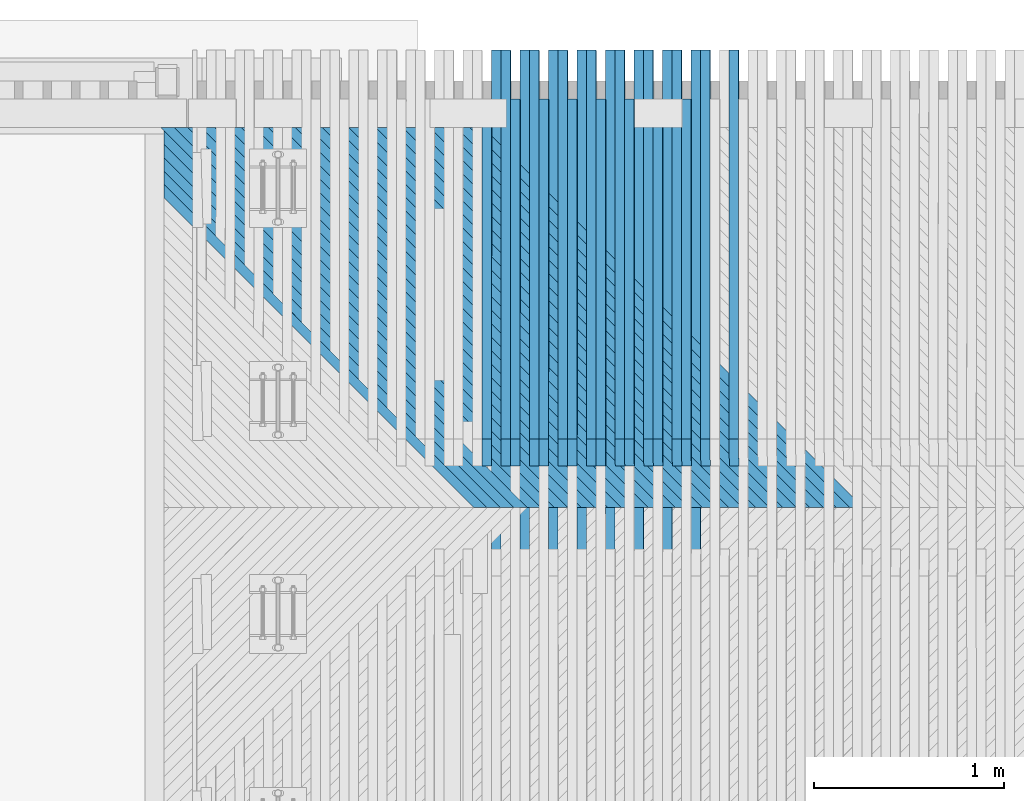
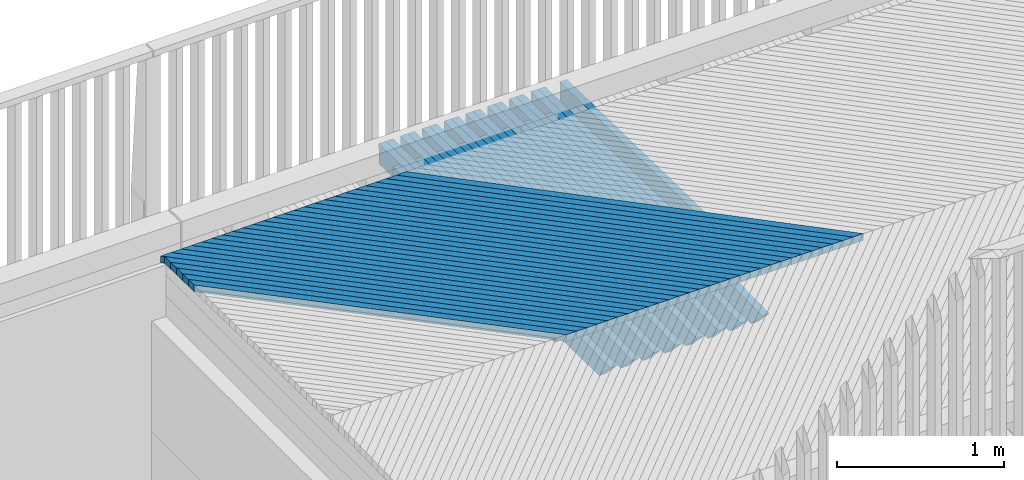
# One storey, part 18 of 47: 54 beams.
"""IFC2X3 building model written with IfcOpenShell, lengths in millimetres."""

from ifc_helpers import new_model, si_unit, frame, origin_with_axes, place, context, subcontext, project, spatial, faceted_brep, material, type_object, element, save


model = new_model("IFC2X3")

# Units and contexts
model_context = context("Model", 3, precision=1e-05, world=origin_with_axes())
body_context = subcontext(model_context, "Body", "Model", "MODEL_VIEW")
ifc_project = project(units=[si_unit("LENGTHUNIT", "METRE", prefix="MILLI"), si_unit("AREAUNIT", "SQUARE_METRE"), si_unit("VOLUMEUNIT", "CUBIC_METRE"), si_unit("MASSUNIT", "GRAM", prefix="KILO"), si_unit("TIMEUNIT", "SECOND"), si_unit("PLANEANGLEUNIT", "RADIAN"), si_unit("SOLIDANGLEUNIT", "STERADIAN"), si_unit("THERMODYNAMICTEMPERATUREUNIT", "DEGREE_CELSIUS"), si_unit("LUMINOUSINTENSITYUNIT", "LUMEN")], contexts=[model_context])

# Site, building, storey
site_placement = place(None, origin_with_axes())
site = spatial("IfcSite", under=ifc_project, at=site_placement, Name="Undefined", CompositionType="ELEMENT")
building_placement = place(site_placement, origin_with_axes())
building = spatial("IfcBuilding", under=site, at=building_placement, Name="Undefined", CompositionType="ELEMENT")
storey_placement = place(building_placement, origin_with_axes())
storey = spatial("IfcBuildingStorey", under=building, at=storey_placement, Name="Undefined", CompositionType="ELEMENT", Elevation=0.0)

# Beams
ifc_material = material(Name="TIMBER/Timber_Undefined")
beam_type_1 = type_object("IfcBeamType", Name="150*50", PredefinedType="NOTDEFINED")
beam_1_placement = place(storey_placement, frame((1198.81666363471, 64771.4438078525, 3049.56647793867), z_axis=(-0.0112934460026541, 0.0199960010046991, 0.999736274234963), x_axis=(-0.000225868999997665, -0.999800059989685, 0.0199947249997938)))
element("IfcBeam", 1, at=beam_1_placement, inside=storey, type_object=beam_type_1, material=ifc_material, Name="BEAM", ObjectType="150*50", context=body_context, shape_type="Brep", body=[
    faceted_brep([(6.18456397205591e-09, -24.9999999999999, -75.0000000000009), (-6.1918399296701e-09, -24.9999999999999, 74.9999999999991), (-6.19911588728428e-09, 25.0, 75.0), (6.18456397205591e-09, 24.9999999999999, -75.0), (2186.42645864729, 25.0, -75.0), (2186.42645915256, -25.0000000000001, -75.0), (2047.96936034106, -25.0000000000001, 75.0), (2047.96935975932, 25.0, 75.0)], [[[0, 1, 2, 3]], [[0, 3, 4, 5]], [[1, 0, 5, 6]], [[2, 1, 6, 7]], [[3, 2, 7, 4]], [[6, 5, 4, 7]]]),
])
beam_2_placement = place(storey_placement, frame((1098.74483430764, 64513.4953923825, 3053.58674481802), z_axis=(-0.0114595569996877, 0.0199960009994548, 0.999734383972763), x_axis=(-0.000229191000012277, -0.9998000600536, 0.019994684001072)))
element("IfcBeam", 2, at=beam_2_placement, inside=storey, type_object=beam_type_1, material=ifc_material, Name="BEAM", ObjectType="150*50", context=body_context, shape_type="Brep", body=[
    faceted_brep([(6.18456397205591e-09, -24.9999999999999, -75.0000000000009), (-6.1918399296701e-09, -24.9999999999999, 74.9999999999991), (-6.19911588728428e-09, 25.0, 75.0), (6.18456397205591e-09, 24.9999999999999, -75.0), (1928.42646506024, 25.0, -75.0), (1928.4264649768, -24.9999999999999, -75.0), (1789.96936577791, -24.9999999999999, 75.0), (1789.96936586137, 25.0, 75.0000000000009)], [[[0, 1, 2, 3]], [[0, 3, 4, 5]], [[1, 0, 5, 6]], [[2, 1, 6, 7]], [[3, 2, 7, 4]], [[6, 5, 4, 7]]]),
])
beam_3_placement = place(storey_placement, frame((1148.78043991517, 64771.443807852, 3049.00036420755), z_axis=(-0.0114595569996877, 0.0199960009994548, 0.999734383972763), x_axis=(-0.000229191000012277, -0.9998000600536, 0.019994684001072)))
element("IfcBeam", 3, at=beam_3_placement, inside=storey, type_object=beam_type_1, material=ifc_material, Name="BEAM", ObjectType="150*50", context=body_context, shape_type="Brep", body=[
    faceted_brep([(6.18456397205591e-09, -24.9999999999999, -75.0000000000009), (6.18456397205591e-09, 24.9999999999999, -75.0), (2633.00494983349, 25.0000000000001, -75.0000000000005), (2633.00495050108, -24.9999999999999, -75.0000000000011), (-6.1918399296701e-09, -24.9999999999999, 74.9999999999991), (-6.19911588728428e-09, 25.0, 75.0), (2408.42506497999, 24.9999999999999, 75.0), (2768.5924870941, 25.0, 60.5875375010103), (2768.59248707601, -25.0, 60.5875366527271), (2408.4250638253, -25.0, 74.9999999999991)], [[[0, 1, 2, 3]], [[0, 4, 5, 1]], [[2, 1, 5, 6, 7]], [[3, 2, 7, 8]], [[4, 0, 3, 8, 9]], [[5, 4, 9, 6]], [[8, 7, 6, 9]]]),
])
beam_4_placement = place(storey_placement, frame((1348.83606163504, 64771.4438078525, 3051.24286249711), z_axis=(-0.0110442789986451, 0.0199960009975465, 0.999739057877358), x_axis=(-0.000220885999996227, -0.99980005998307, 0.0199947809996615)))
element("IfcBeam", 4, at=beam_4_placement, inside=storey, type_object=beam_type_1, material=ifc_material, Name="BEAM", ObjectType="150*50", context=body_context, shape_type="Brep", body=[
    faceted_brep([(6.18456397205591e-09, -24.9999999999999, -75.0000000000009), (-6.1918399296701e-09, -24.9999999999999, 74.9999999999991), (-6.19911588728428e-09, 25.0, 75.0), (6.18456397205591e-09, 24.9999999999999, -75.0), (2186.42645864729, 25.0, -75.0), (2186.42645915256, -25.0000000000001, -75.0), (2047.96936034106, -25.0000000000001, 75.0), (2047.96935975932, 25.0, 75.0)], [[[0, 1, 2, 3]], [[0, 3, 4, 5]], [[1, 0, 5, 6]], [[2, 1, 6, 7]], [[3, 2, 7, 4]], [[6, 5, 4, 7]]]),
])
beam_5_placement = place(storey_placement, frame((1248.76523739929, 64513.4953923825, 3055.28807045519), z_axis=(-0.0112103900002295, 0.0199960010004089, 0.999737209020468), x_axis=(-0.000224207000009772, -0.999800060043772, 0.0199947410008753)))
element("IfcBeam", 5, at=beam_5_placement, inside=storey, type_object=beam_type_1, material=ifc_material, Name="BEAM", ObjectType="150*50", context=body_context, shape_type="Brep", body=[
    faceted_brep([(6.18456397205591e-09, -24.9999999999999, -75.0000000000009), (-6.1918399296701e-09, -24.9999999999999, 74.9999999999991), (-6.19911588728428e-09, 25.0, 75.0), (6.18456397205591e-09, 24.9999999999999, -75.0), (1928.42646506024, 25.0, -75.0), (1928.4264649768, -24.9999999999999, -75.0), (1789.96936577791, -24.9999999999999, 75.0), (1789.96936586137, 25.0, 75.0000000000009)], [[[0, 1, 2, 3]], [[0, 3, 4, 5]], [[1, 0, 5, 6]], [[2, 1, 6, 7]], [[3, 2, 7, 4]], [[6, 5, 4, 7]]]),
])
beam_6_placement = place(storey_placement, frame((1298.79969837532, 64771.443807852, 3050.68921946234), z_axis=(-0.0112103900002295, 0.0199960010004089, 0.999737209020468), x_axis=(-0.000224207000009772, -0.999800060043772, 0.0199947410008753)))
element("IfcBeam", 6, at=beam_6_placement, inside=storey, type_object=beam_type_1, material=ifc_material, Name="BEAM", ObjectType="150*50", context=body_context, shape_type="Brep", body=[
    faceted_brep([(6.18456397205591e-09, -24.9999999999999, -75.0000000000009), (6.18456397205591e-09, 24.9999999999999, -75.0), (2633.00494983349, 25.0000000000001, -75.0000000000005), (2633.00495050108, -24.9999999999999, -75.0000000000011), (-6.1918399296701e-09, -24.9999999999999, 74.9999999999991), (-6.19911588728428e-09, 25.0, 75.0), (2408.42506497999, 24.9999999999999, 75.0), (2768.5924870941, 25.0, 60.5875375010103), (2768.59248707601, -25.0, 60.5875366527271), (2408.4250638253, -25.0, 74.9999999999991)], [[[0, 1, 2, 3]], [[0, 4, 5, 1]], [[2, 1, 5, 6, 7]], [[3, 2, 7, 8]], [[4, 0, 3, 8, 9]], [[5, 4, 9, 6]], [[8, 7, 6, 9]]]),
])
beam_7_placement = place(storey_placement, frame((1498.85587278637, 64771.4438078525, 3052.88185721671), z_axis=(-0.0107951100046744, 0.0199960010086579, 0.999741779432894), x_axis=(-0.000215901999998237, -0.999800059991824, 0.0199948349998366)))
element("IfcBeam", 7, at=beam_7_placement, inside=storey, type_object=beam_type_1, material=ifc_material, Name="BEAM", ObjectType="150*50", context=body_context, shape_type="Brep", body=[
    faceted_brep([(6.18456397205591e-09, -24.9999999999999, -75.0000000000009), (-6.1918399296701e-09, -24.9999999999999, 74.9999999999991), (-6.19911588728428e-09, 25.0, 75.0), (6.18456397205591e-09, 24.9999999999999, -75.0), (2186.42645864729, 25.0, -75.0), (2186.42645915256, -25.0000000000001, -75.0), (2047.96936034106, -25.0000000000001, 75.0), (2047.96935975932, 25.0, 75.0)], [[[0, 1, 2, 3]], [[0, 3, 4, 5]], [[1, 0, 5, 6]], [[2, 1, 6, 7]], [[3, 2, 7, 4]], [[6, 5, 4, 7]]]),
])
beam_8_placement = place(storey_placement, frame((1398.78605985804, 64513.4953923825, 3056.95200600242), z_axis=(-0.0109612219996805, 0.0199960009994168, 0.999739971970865), x_axis=(-0.000219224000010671, -0.999800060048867, 0.0199947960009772)))
element("IfcBeam", 8, at=beam_8_placement, inside=storey, type_object=beam_type_1, material=ifc_material, Name="BEAM", ObjectType="150*50", context=body_context, shape_type="Brep", body=[
    faceted_brep([(6.18456397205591e-09, -24.9999999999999, -75.0000000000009), (-6.1918399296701e-09, -24.9999999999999, 74.9999999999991), (-6.19911588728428e-09, 25.0, 75.0), (6.18456397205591e-09, 24.9999999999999, -75.0), (1928.42646506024, 25.0, -75.0), (1928.4264649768, -24.9999999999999, -75.0), (1789.96936577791, -24.9999999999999, 75.0), (1789.96936586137, 25.0, 75.0000000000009)], [[[0, 1, 2, 3]], [[0, 3, 4, 5]], [[1, 0, 5, 6]], [[2, 1, 6, 7]], [[3, 2, 7, 4]], [[6, 5, 4, 7]]]),
])
beam_9_placement = place(storey_placement, frame((1448.81937309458, 64771.443807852, 3052.34068491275), z_axis=(-0.0109612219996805, 0.0199960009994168, 0.999739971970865), x_axis=(-0.000219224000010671, -0.999800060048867, 0.0199947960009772)))
element("IfcBeam", 9, at=beam_9_placement, inside=storey, type_object=beam_type_1, material=ifc_material, Name="BEAM", ObjectType="150*50", context=body_context, shape_type="Brep", body=[
    faceted_brep([(6.18456397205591e-09, -24.9999999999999, -75.0000000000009), (6.18456397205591e-09, 24.9999999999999, -75.0), (2633.00494983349, 25.0000000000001, -75.0000000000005), (2633.00495050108, -24.9999999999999, -75.0000000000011), (-6.1918399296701e-09, -24.9999999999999, 74.9999999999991), (-6.19911588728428e-09, 25.0, 75.0), (2408.42506497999, 24.9999999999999, 75.0), (2768.5924870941, 25.0, 60.5875375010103), (2768.59248707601, -25.0, 60.5875366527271), (2408.4250638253, -25.0, 74.9999999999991)], [[[0, 1, 2, 3]], [[0, 4, 5, 1]], [[2, 1, 5, 6, 7]], [[3, 2, 7, 8]], [[4, 0, 3, 8, 9]], [[5, 4, 9, 6]], [[8, 7, 6, 9]]]),
])
beam_10_placement = place(storey_placement, frame((1648.87608776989, 64771.4438078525, 3054.48346199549), z_axis=(-0.0105459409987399, 0.0199960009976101, 0.999744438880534), x_axis=(-0.000210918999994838, -0.99980005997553, 0.0199948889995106)))
element("IfcBeam", 10, at=beam_10_placement, inside=storey, type_object=beam_type_1, material=ifc_material, Name="BEAM", ObjectType="150*50", context=body_context, shape_type="Brep", body=[
    faceted_brep([(6.18456397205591e-09, -24.9999999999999, -75.0000000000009), (-6.1918399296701e-09, -24.9999999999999, 74.9999999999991), (-6.19911588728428e-09, 25.0, 75.0), (6.18456397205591e-09, 24.9999999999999, -75.0), (2186.42645864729, 25.0, -75.0), (2186.42645915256, -25.0000000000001, -75.0), (2047.96936034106, -25.0000000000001, 75.0), (2047.96935975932, 25.0, 75.0)], [[[0, 1, 2, 3]], [[0, 3, 4, 5]], [[1, 0, 5, 6]], [[2, 1, 6, 7]], [[3, 2, 7, 4]], [[6, 5, 4, 7]]]),
])
beam_11_placement = place(storey_placement, frame((1548.80729236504, 64513.4953923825, 3058.57855135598), z_axis=(-0.0107120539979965, 0.0199960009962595, 0.99974267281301), x_axis=(-0.00021424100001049, -0.999800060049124, 0.0199948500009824)))
element("IfcBeam", 11, at=beam_11_placement, inside=storey, type_object=beam_type_1, material=ifc_material, Name="BEAM", ObjectType="150*50", context=body_context, shape_type="Brep", body=[
    faceted_brep([(6.18456397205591e-09, -24.9999999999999, -75.0000000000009), (-6.1918399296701e-09, -24.9999999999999, 74.9999999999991), (-6.19911588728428e-09, 25.0, 75.0), (6.18456397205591e-09, 24.9999999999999, -75.0), (1928.42646506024, 25.0, -75.0), (1928.4264649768, -24.9999999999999, -75.0), (1789.96936577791, -24.9999999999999, 75.0), (1789.96936586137, 25.0, 75.0000000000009)], [[[0, 1, 2, 3]], [[0, 3, 4, 5]], [[1, 0, 5, 6]], [[2, 1, 6, 7]], [[3, 2, 7, 4]], [[6, 5, 4, 7]]]),
])
beam_12_placement = place(storey_placement, frame((1598.83945475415, 64771.443807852, 3053.95476045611), z_axis=(-0.0107120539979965, 0.0199960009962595, 0.99974267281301), x_axis=(-0.00021424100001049, -0.999800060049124, 0.0199948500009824)))
element("IfcBeam", 12, at=beam_12_placement, inside=storey, type_object=beam_type_1, material=ifc_material, Name="BEAM", ObjectType="150*50", context=body_context, shape_type="Brep", body=[
    faceted_brep([(6.18456397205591e-09, -24.9999999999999, -75.0000000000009), (6.18456397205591e-09, 24.9999999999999, -75.0), (2633.00494983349, 25.0000000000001, -75.0000000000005), (2633.00495050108, -24.9999999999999, -75.0000000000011), (-6.1918399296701e-09, -24.9999999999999, 74.9999999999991), (-6.19911588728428e-09, 25.0, 75.0), (2408.42506497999, 24.9999999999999, 75.0), (2768.5924870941, 25.0, 60.5875375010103), (2768.59248707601, -25.0, 60.5875366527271), (2408.4250638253, -25.0, 74.9999999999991)], [[[0, 1, 2, 3]], [[0, 4, 5, 1]], [[2, 1, 5, 6, 7]], [[3, 2, 7, 8]], [[4, 0, 3, 8, 9]], [[5, 4, 9, 6]], [[8, 7, 6, 9]]]),
])
beam_13_placement = place(storey_placement, frame((1798.89669726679, 64771.4438078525, 3056.04767673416), z_axis=(-0.0102967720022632, 0.0199960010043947, 0.999747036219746), x_axis=(-0.000205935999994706, -0.999800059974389, 0.0199949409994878)))
element("IfcBeam", 13, at=beam_13_placement, inside=storey, type_object=beam_type_1, material=ifc_material, Name="BEAM", ObjectType="150*50", context=body_context, shape_type="Brep", body=[
    faceted_brep([(6.18456397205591e-09, -24.9999999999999, -75.0000000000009), (-6.1918399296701e-09, -24.9999999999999, 74.9999999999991), (-6.19911588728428e-09, 25.0, 75.0), (6.18456397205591e-09, 24.9999999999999, -75.0), (2186.42645864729, 25.0, -75.0), (2186.42645915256, -25.0000000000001, -75.0), (2047.96936034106, -25.0000000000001, 75.0), (2047.96935975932, 25.0, 75.0)], [[[0, 1, 2, 3]], [[0, 3, 4, 5]], [[1, 0, 5, 6]], [[2, 1, 6, 7]], [[3, 2, 7, 4]], [[6, 5, 4, 7]]]),
])
beam_14_placement = place(storey_placement, frame((1698.8289256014, 64513.4953923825, 3060.16770641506), z_axis=(-0.0104628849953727, 0.0199960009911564, 0.999745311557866), x_axis=(-0.000209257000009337, -0.999800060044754, 0.019994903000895)))
element("IfcBeam", 14, at=beam_14_placement, inside=storey, type_object=beam_type_1, material=ifc_material, Name="BEAM", ObjectType="150*50", context=body_context, shape_type="Brep", body=[
    faceted_brep([(6.18456397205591e-09, -24.9999999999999, -75.0000000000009), (-6.1918399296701e-09, -24.9999999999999, 74.9999999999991), (-6.19911588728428e-09, 25.0, 75.0), (6.18456397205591e-09, 24.9999999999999, -75.0), (1928.42646506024, 25.0, -75.0), (1928.4264649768, -24.9999999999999, -75.0), (1789.96936577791, -24.9999999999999, 75.0), (1789.96936586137, 25.0, 75.0000000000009)], [[[0, 1, 2, 3]], [[0, 3, 4, 5]], [[1, 0, 5, 6]], [[2, 1, 6, 7]], [[3, 2, 7, 4]], [[6, 5, 4, 7]]]),
])
beam_15_placement = place(storey_placement, frame((1748.85993403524, 64771.443807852, 3055.53144599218), z_axis=(-0.0104628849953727, 0.0199960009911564, 0.999745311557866), x_axis=(-0.000209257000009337, -0.999800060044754, 0.019994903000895)))
element("IfcBeam", 15, at=beam_15_placement, inside=storey, type_object=beam_type_1, material=ifc_material, Name="BEAM", ObjectType="150*50", context=body_context, shape_type="Brep", body=[
    faceted_brep([(6.18456397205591e-09, -24.9999999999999, -75.0000000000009), (6.18456397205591e-09, 24.9999999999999, -75.0), (2633.00494983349, 25.0000000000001, -75.0000000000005), (2633.00495050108, -24.9999999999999, -75.0000000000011), (-6.1918399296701e-09, -24.9999999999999, 74.9999999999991), (-6.19911588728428e-09, 25.0, 75.0), (2408.42512070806, 25.0000000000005, 75.0), (2768.5924870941, 25.0, 60.5875375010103), (2768.59248707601, -25.0, 60.5875366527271), (2408.42512005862, -24.9999999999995, 75.0)], [[[0, 1, 2, 3]], [[0, 4, 5, 1]], [[2, 1, 5, 6, 7]], [[3, 2, 7, 8]], [[4, 0, 3, 8, 9]], [[5, 4, 9, 6]], [[8, 7, 6, 9]]]),
])
beam_16_placement = place(storey_placement, frame((1948.91769195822, 64771.4438078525, 3057.5745013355), z_axis=(-0.0100476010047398, 0.0199960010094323, 0.999749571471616), x_axis=(-0.000200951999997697, -0.999800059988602, 0.0199949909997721)))
element("IfcBeam", 16, at=beam_16_placement, inside=storey, type_object=beam_type_1, material=ifc_material, Name="BEAM", ObjectType="150*50", context=body_context, shape_type="Brep", body=[
    faceted_brep([(6.18456397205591e-09, -24.9999999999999, -75.0000000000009), (-6.1918399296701e-09, -24.9999999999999, 74.9999999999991), (-6.19911588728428e-09, 25.0, 75.0), (6.18456397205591e-09, 24.9999999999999, -75.0), (2186.42645864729, 25.0, -75.0), (2186.42645915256, -25.0000000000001, -75.0), (2047.96936034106, -25.0000000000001, 75.0), (2047.96935975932, 25.0, 75.0)], [[[0, 1, 2, 3]], [[0, 3, 4, 5]], [[1, 0, 5, 6]], [[2, 1, 6, 7]], [[3, 2, 7, 4]], [[6, 5, 4, 7]]]),
])
beam_17_placement = place(storey_placement, frame((1848.8509502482, 64513.4953923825, 3061.71947108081), z_axis=(-0.0102137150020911, 0.0199960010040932, 0.999747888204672), x_axis=(-0.000204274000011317, -0.999800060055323, 0.0199949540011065)))
element("IfcBeam", 17, at=beam_17_placement, inside=storey, type_object=beam_type_1, material=ifc_material, Name="BEAM", ObjectType="150*50", context=body_context, shape_type="Brep", body=[
    faceted_brep([(6.18456397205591e-09, -24.9999999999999, -75.0000000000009), (-6.1918399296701e-09, -24.9999999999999, 74.9999999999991), (-6.19911588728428e-09, 25.0, 75.0), (6.18456397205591e-09, 24.9999999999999, -75.0), (1928.42646506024, 25.0, -75.0), (1928.4264649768, -24.9999999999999, -75.0), (1789.96936577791, -24.9999999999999, 75.0), (1789.96936586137, 25.0, 75.0000000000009)], [[[0, 1, 2, 3]], [[0, 3, 4, 5]], [[1, 0, 5, 6]], [[2, 1, 6, 7]], [[3, 2, 7, 4]], [[6, 5, 4, 7]]]),
])
beam_18_placement = place(storey_placement, frame((1898.880801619, 64771.443807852, 3057.07074142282), z_axis=(-0.0102137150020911, 0.0199960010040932, 0.999747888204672), x_axis=(-0.000204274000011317, -0.999800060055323, 0.0199949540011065)))
element("IfcBeam", 18, at=beam_18_placement, inside=storey, type_object=beam_type_1, material=ifc_material, Name="BEAM", ObjectType="150*50", context=body_context, shape_type="Brep", body=[
    faceted_brep([(6.18456397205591e-09, -24.9999999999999, -75.0000000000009), (6.18456397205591e-09, 24.9999999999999, -75.0), (2633.00494983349, 25.0000000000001, -75.0000000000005), (2633.00495050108, -24.9999999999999, -75.0000000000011), (-6.1918399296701e-09, -24.9999999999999, 74.9999999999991), (-6.19911588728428e-09, 25.0, 75.0), (2408.42506497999, 24.9999999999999, 75.0), (2768.5924870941, 25.0, 60.5875375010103), (2768.59248707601, -25.0, 60.5875366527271), (2408.4250638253, -25.0, 74.9999999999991)], [[[0, 1, 2, 3]], [[0, 4, 5, 1]], [[2, 1, 5, 6, 7]], [[3, 2, 7, 8]], [[4, 0, 3, 8, 9]], [[5, 4, 9, 6]], [[8, 7, 6, 9]]]),
])
beam_19_placement = place(storey_placement, frame((2098.93906252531, 64771.4438078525, 3059.06393570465), z_axis=(-0.00979842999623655, 0.0199960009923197, 0.999752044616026), x_axis=(-0.000195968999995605, -0.999800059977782, 0.0199950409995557)))
element("IfcBeam", 19, at=beam_19_placement, inside=storey, type_object=beam_type_1, material=ifc_material, Name="BEAM", ObjectType="150*50", context=body_context, shape_type="Brep", body=[
    faceted_brep([(6.18456397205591e-09, -24.9999999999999, -75.0000000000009), (-6.1918399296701e-09, -24.9999999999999, 74.9999999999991), (-6.19911588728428e-09, 25.0, 75.0), (6.18456397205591e-09, 24.9999999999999, -75.0), (2186.42645864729, 25.0, -75.0), (2186.42645915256, -25.0000000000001, -75.0), (2047.96936034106, -25.0000000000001, 75.0), (2047.96935975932, 25.0, 75.0)], [[[0, 1, 2, 3]], [[0, 3, 4, 5]], [[1, 0, 5, 6]], [[2, 1, 6, 7]], [[3, 2, 7, 4]], [[6, 5, 4, 7]]]),
])
beam_20_placement = place(storey_placement, frame((1998.87335698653, 64513.4953923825, 3063.23384525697), z_axis=(-0.00996454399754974, 0.0199960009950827, 0.99975040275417), x_axis=(-0.000199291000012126, -0.999800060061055, 0.019995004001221)))
element("IfcBeam", 20, at=beam_20_placement, inside=storey, type_object=beam_type_1, material=ifc_material, Name="BEAM", ObjectType="150*50", context=body_context, shape_type="Brep", body=[
    faceted_brep([(6.18456397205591e-09, -24.9999999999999, -75.0000000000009), (-6.1918399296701e-09, -24.9999999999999, 74.9999999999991), (-6.19911588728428e-09, 25.0, 75.0), (6.18456397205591e-09, 24.9999999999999, -75.0), (1928.42646506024, 25.0, -75.0), (1928.4264649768, -24.9999999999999, -75.0), (1789.96936577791, -24.9999999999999, 75.0), (1789.96936586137, 25.0, 75.0000000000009)], [[[0, 1, 2, 3]], [[0, 3, 4, 5]], [[1, 0, 5, 6]], [[2, 1, 6, 7]], [[3, 2, 7, 4]], [[6, 5, 4, 7]]]),
])
beam_21_placement = place(storey_placement, frame((2048.90204818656, 64771.443807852, 3058.57264665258), z_axis=(-0.00996454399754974, 0.0199960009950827, 0.99975040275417), x_axis=(-0.000199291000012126, -0.999800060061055, 0.019995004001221)))
element("IfcBeam", 21, at=beam_21_placement, inside=storey, type_object=beam_type_1, material=ifc_material, Name="BEAM", ObjectType="150*50", context=body_context, shape_type="Brep", body=[
    faceted_brep([(6.18456397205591e-09, -24.9999999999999, -75.0000000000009), (6.18456397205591e-09, 24.9999999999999, -75.0), (2633.00494983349, 25.0000000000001, -75.0000000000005), (2633.00495050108, -24.9999999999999, -75.0000000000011), (-6.1918399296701e-09, -24.9999999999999, 74.9999999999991), (-6.19911588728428e-09, 25.0, 75.0), (2408.42506497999, 24.9999999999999, 75.0), (2768.5924870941, 25.0, 60.5875375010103), (2768.59248707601, -25.0, 60.5875366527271), (2408.4250638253, -25.0, 74.9999999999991)], [[[0, 1, 2, 3]], [[0, 4, 5, 1]], [[2, 1, 5, 6, 7]], [[3, 2, 7, 8]], [[4, 0, 3, 8, 9]], [[5, 4, 9, 6]], [[8, 7, 6, 9]]]),
])
beam_22_placement = place(storey_placement, frame((2248.96079964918, 64771.4438078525, 3060.51597974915), z_axis=(-0.00954925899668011, 0.0199960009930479, 0.999754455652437), x_axis=(-0.000190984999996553, -0.999800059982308, 0.0199950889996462)))
element("IfcBeam", 22, at=beam_22_placement, inside=storey, type_object=beam_type_1, material=ifc_material, Name="BEAM", ObjectType="150*50", context=body_context, shape_type="Brep", body=[
    faceted_brep([(6.18456397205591e-09, -24.9999999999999, -75.0000000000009), (-6.1918399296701e-09, -24.9999999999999, 74.9999999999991), (-6.19911588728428e-09, 25.0, 75.0), (6.18456397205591e-09, 24.9999999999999, -75.0), (2186.42645864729, 25.0, -75.0), (2186.42645915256, -25.0000000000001, -75.0), (2047.96936034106, -25.0000000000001, 75.0), (2047.96935975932, 25.0, 75.0)], [[[0, 1, 2, 3]], [[0, 3, 4, 5]], [[1, 0, 5, 6]], [[2, 1, 6, 7]], [[3, 2, 7, 4]], [[6, 5, 4, 7]]]),
])
beam_23_placement = place(storey_placement, frame((2148.89613649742, 64513.4953923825, 3064.71082884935), z_axis=(-0.00971537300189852, 0.019996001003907, 0.999752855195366), x_axis=(-0.000194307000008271, -0.999800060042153, 0.0199950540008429)))
element("IfcBeam", 23, at=beam_23_placement, inside=storey, type_object=beam_type_1, material=ifc_material, Name="BEAM", ObjectType="150*50", context=body_context, shape_type="Brep", body=[
    faceted_brep([(6.18456397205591e-09, -24.9999999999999, -75.0000000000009), (-6.1918399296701e-09, -24.9999999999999, 74.9999999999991), (-6.19911588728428e-09, 25.0, 75.0), (6.18456397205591e-09, 24.9999999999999, -75.0), (1928.42646506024, 25.0, -75.0), (1928.4264649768, -24.9999999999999, -75.0), (1789.96936577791, -24.9999999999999, 75.0), (1789.96936586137, 25.0, 75.0000000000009)], [[[0, 1, 2, 3]], [[0, 3, 4, 5]], [[1, 0, 5, 6]], [[2, 1, 6, 7]], [[3, 2, 7, 4]], [[6, 5, 4, 7]]]),
])
beam_24_placement = place(storey_placement, frame((2198.92366441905, 64771.443807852, 3060.03716158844), z_axis=(-0.00971537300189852, 0.019996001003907, 0.999752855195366), x_axis=(-0.000194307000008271, -0.999800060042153, 0.0199950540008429)))
element("IfcBeam", 24, at=beam_24_placement, inside=storey, type_object=beam_type_1, material=ifc_material, Name="BEAM", ObjectType="150*50", context=body_context, shape_type="Brep", body=[
    faceted_brep([(6.18456397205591e-09, -24.9999999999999, -75.0000000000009), (6.18456397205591e-09, 24.9999999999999, -75.0), (2633.00494983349, 25.0000000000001, -75.0000000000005), (2633.00495050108, -24.9999999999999, -75.0000000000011), (-6.1918399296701e-09, -24.9999999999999, 74.9999999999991), (-6.19911588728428e-09, 25.0, 75.0), (2408.42506497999, 24.9999999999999, 75.0), (2768.5924870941, 25.0, 60.5875375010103), (2768.59248707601, -25.0, 60.5875366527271), (2408.4250638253, -25.0, 74.9999999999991)], [[[0, 1, 2, 3]], [[0, 4, 5, 1]], [[2, 1, 5, 6, 7]], [[3, 2, 7, 8]], [[4, 0, 3, 8, 9]], [[5, 4, 9, 6]], [[8, 7, 6, 9]]]),
])
beam_25_placement = place(storey_placement, frame((2398.9828940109, 64771.4438078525, 3061.93063337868), z_axis=(-0.00930008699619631, 0.0199960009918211, 0.999756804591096), x_axis=(-0.000186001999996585, -0.999800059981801, 0.0199951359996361)))
element("IfcBeam", 25, at=beam_25_placement, inside=storey, type_object=beam_type_1, material=ifc_material, Name="BEAM", ObjectType="150*50", context=body_context, shape_type="Brep", body=[
    faceted_brep([(6.18456397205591e-09, -24.9999999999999, -75.0000000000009), (-6.1918399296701e-09, -24.9999999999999, 74.9999999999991), (-6.19911588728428e-09, 25.0, 75.0), (6.18456397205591e-09, 24.9999999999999, -75.0), (2186.42645864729, 25.0, -75.0), (2186.42645915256, -25.0000000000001, -75.0), (2047.96936034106, -25.0000000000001, 75.0), (2047.96935975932, 25.0, 75.0)], [[[0, 1, 2, 3]], [[0, 3, 4, 5]], [[1, 0, 5, 6]], [[2, 1, 6, 7]], [[3, 2, 7, 4]], [[6, 5, 4, 7]]]),
])
beam_type_2 = type_object("IfcBeamType", Name="50*50", PredefinedType="NOTDEFINED")
beam_26_placement = place(storey_placement, frame((1063.53664815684, 62365.4998996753, 3196.16580383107), z_axis=(0.707215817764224, 0.706981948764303, -0.00472347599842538), x_axis=(-0.706872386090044, 0.706948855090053, -0.0235530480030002)))
element("IfcBeam", 26, at=beam_26_placement, inside=storey, type_object=beam_type_2, material=ifc_material, Name="BEAM", ObjectType="50*50", context=body_context, shape_type="Brep", body=[
    faceted_brep([(25.0011701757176, -25.0, -24.9999999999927), (-25.0011704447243, -25.0, 24.9999999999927), (-26.4154158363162, 25.0, 25.0), (23.5869248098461, 25.0, -25.0), (2377.91752596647, 25.0, 25.0000000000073), (2327.89323362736, 25.0000000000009, -24.9999999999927), (2328.83486921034, -24.9999999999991, -24.9999999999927), (2378.85916154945, -24.9999999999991, 25.0)], [[[0, 1, 2, 3]], [[3, 2, 4, 5]], [[0, 3, 5, 6]], [[1, 0, 6, 7]], [[2, 1, 7, 4]], [[6, 5, 4, 7]]]),
])
beam_27_placement = place(storey_placement, frame((1134.25623604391, 62365.4998996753, 3196.97641200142), z_axis=(0.707215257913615, 0.706981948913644, -0.00480654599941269), x_axis=(-0.706875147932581, 0.706948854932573, -0.0234700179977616)))
element("IfcBeam", 27, at=beam_27_placement, inside=storey, type_object=beam_type_2, material=ifc_material, Name="BEAM", ObjectType="50*50", context=body_context, shape_type="Brep", body=[
    faceted_brep([(25.0011701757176, -25.0, -24.9999999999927), (-25.0011704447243, -25.0, 24.9999999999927), (-26.4154158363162, 25.0, 25.0), (23.5869248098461, 25.0, -25.0), (2477.95774146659, 25.0, 25.0), (2427.93368417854, 25.0, -24.9999999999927), (2428.86701002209, -25.0, -24.9999999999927), (2478.89106731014, -25.0, 25.0)], [[[0, 1, 2, 3]], [[3, 2, 4, 5]], [[0, 3, 5, 6]], [[1, 0, 6, 7]], [[2, 1, 7, 4]], [[6, 5, 4, 7]]]),
])
beam_28_placement = place(storey_placement, frame((1204.9759186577, 62365.4998996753, 3197.77871339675), z_axis=(0.707214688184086, 0.706981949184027, -0.00488961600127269), x_axis=(-0.706877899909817, 0.706948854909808, -0.0233869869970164)))
element("IfcBeam", 28, at=beam_28_placement, inside=storey, type_object=beam_type_2, material=ifc_material, Name="BEAM", ObjectType="50*50", context=body_context, shape_type="Brep", body=[
    faceted_brep([(25.0011701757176, -25.0, -24.9999999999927), (-25.0011704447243, -25.0, 24.9999999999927), (-26.4154158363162, 25.0, 25.0), (23.5869248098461, 25.0, -25.0), (2577.99734489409, 25.0000000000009, 25.0), (2527.97352265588, 25.0000000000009, -25.0000000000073), (2528.89853878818, -24.9999999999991, -25.0), (2578.92236102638, -24.9999999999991, 24.9999999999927)], [[[0, 1, 2, 3]], [[3, 2, 4, 5]], [[0, 3, 5, 6]], [[1, 0, 6, 7]], [[2, 1, 7, 4]], [[6, 5, 4, 7]]]),
])
beam_29_placement = place(storey_placement, frame((1275.69569502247, 62365.4998996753, 3198.57270800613), z_axis=(0.707214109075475, 0.706981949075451, -0.00497268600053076), x_axis=(-0.70688064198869, 0.706948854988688, -0.0233039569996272)))
element("IfcBeam", 29, at=beam_29_placement, inside=storey, type_object=beam_type_2, material=ifc_material, Name="BEAM", ObjectType="50*50", context=body_context, shape_type="Brep", body=[
    faceted_brep([(25.0011701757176, -25.0, -24.9999999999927), (-25.0011704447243, -25.0, 24.9999999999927), (-26.4154158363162, 25.0, 25.0), (23.5869248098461, 25.0, -25.0), (2678.0363391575, 25.0000000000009, 24.9999999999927), (2628.01275193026, 25.0000000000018, -25.0), (2628.92945847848, -24.9999999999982, -25.0), (2678.95304570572, -24.9999999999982, 25.0)], [[[0, 1, 2, 3]], [[3, 2, 4, 5]], [[0, 3, 5, 6]], [[1, 0, 6, 7]], [[2, 1, 7, 4]], [[6, 5, 4, 7]]]),
])
beam_30_placement = place(storey_placement, frame((1346.41556416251, 62365.4998996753, 3199.3583958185), z_axis=(0.70721352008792, 0.706981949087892, -0.00505575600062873), x_axis=(-0.706883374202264, 0.706948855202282, -0.0232209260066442)))
element("IfcBeam", 30, at=beam_30_placement, inside=storey, type_object=beam_type_2, material=ifc_material, Name="BEAM", ObjectType="50*50", context=body_context, shape_type="Brep", body=[
    faceted_brep([(25.0011701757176, -25.0, -24.9999999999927), (-25.0011704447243, -25.0, 24.9999999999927), (-26.4154158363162, 25.0, 25.0), (23.5869248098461, 25.0, -25.0), (2778.07472698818, 25.0, 25.0), (2728.0513747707, 25.0000000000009, -25.0000000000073), (2728.95977176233, -25.0, -25.0), (2778.9831239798, -25.0, 25.0)], [[[0, 1, 2, 3]], [[3, 2, 4, 5]], [[0, 3, 5, 6]], [[1, 0, 6, 7]], [[2, 1, 7, 4]], [[6, 5, 4, 7]]]),
])
for number, where, z_axis, x_axis, name in (
    (31, (1417.1355251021, 62365.4998996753, 3200.13577682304), (0.70721292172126, 0.706981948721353, -0.00513882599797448), (-0.706886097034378, 0.706948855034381, -0.0231378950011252), "BEAM"),
    (32, (1487.85557686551, 62365.4998996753, 3200.90485100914), (0.707212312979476, 0.706981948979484, -0.00522189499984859), (-0.706888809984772, 0.70694885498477, -0.0230548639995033), "BEAM"),
    (33, (1558.57571847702, 62365.4998996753, 3201.66561836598), (0.707211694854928, 0.706981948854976, -0.00530496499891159), (-0.706891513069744, 0.706948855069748, -0.0229718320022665), "BEAM"),
    (34, (1629.2959489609, 62365.4998996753, 3202.41807888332), (0.707211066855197, 0.706981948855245, -0.00538803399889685), (-0.706894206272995, 0.706948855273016, -0.0228888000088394), "BEAM"),
    (35, (1700.01626734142, 62365.4998996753, 3203.16223255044), (0.707210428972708, 0.706981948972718, -0.00547110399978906), (-0.706896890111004, 0.706948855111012, -0.0228057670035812), "BEAM"),
    (36, (1770.73667264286, 62365.4998996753, 3203.89807935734), (0.70720978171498, 0.706981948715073, -0.00555417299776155), (-0.706899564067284, 0.706948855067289, -0.0227227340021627), "BEAM"),
    (37, (1841.45716388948, 62365.4998996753, 3204.62561929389), (0.707209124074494, 0.706981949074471, -0.00563724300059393), (-0.706902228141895, 0.706948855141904, -0.0226397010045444), "BEAM"),
    (38, (1912.17774010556, 62365.4998996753, 3205.34485234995), (0.707208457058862, 0.706981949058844, -0.00572031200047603), (-0.706904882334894, 0.706948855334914, -0.0225566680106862), "BEAM"),
    (39, (1982.89840031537, 62365.4998996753, 3206.05577851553), (0.707207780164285, 0.706981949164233, -0.0058033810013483), (-0.706907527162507, 0.706948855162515, -0.0224736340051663), "BEAM"),
    (40, (2053.61914354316, 62365.4998996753, 3206.75839778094), (0.707207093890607, 0.706981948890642, -0.00588644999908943), (-0.706910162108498, 0.706948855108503, -0.0223906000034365), "BEAM"),
    (41, (2124.3399688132, 62365.4998996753, 3207.45271013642), (0.707206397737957, 0.706981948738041, -0.00596951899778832), (-0.706912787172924, 0.706948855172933, -0.0223075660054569), "BEAM"),
    (42, (2195.06087514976, 62365.4998996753, 3208.13871557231), (0.70720569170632, 0.706981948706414, -0.00605258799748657), (-0.706915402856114, 0.706948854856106, -0.0222245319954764), "BEAM"),
    (43, (2265.78186157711, 62365.4998996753, 3208.8164140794), (0.707204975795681, 0.706981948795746, -0.00613565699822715), (-0.706918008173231, 0.706948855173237, -0.0221414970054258), "BEAM"),
    (44, (2336.5029271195, 62365.4998996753, 3209.48580564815), (0.707204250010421, 0.706981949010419, -0.00621872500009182), (-0.706920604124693, 0.706948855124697, -0.0220584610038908), "BEAM"),
    (45, (2407.22407080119, 62365.4998996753, 3210.14689026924), (0.707203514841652, 0.706981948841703, -0.00630179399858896), (-0.706923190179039, 0.706948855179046, -0.0219754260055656), "BEAM"),
    (46, (2477.94529164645, 62365.4998996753, 3210.79966793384), (0.707202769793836, 0.706981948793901, -0.0063848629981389), (-0.706925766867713, 0.706948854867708, -0.0218923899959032), "BEAM"),
    (47, (3043.7177192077, 62365.4998996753, 3215.72283775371), (0.707196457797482, 0.706981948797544, -0.00704940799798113), (-0.706946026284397, 0.706948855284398, -0.0212280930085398), "BEAM"),
    (48, (2972.99591618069, 62365.4998996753, 3215.13651605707), (0.707197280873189, 0.706981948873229, -0.00696633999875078), (-0.706943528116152, 0.706948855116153, -0.0213111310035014), "BEAM"),
    (49, (2902.27418251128, 62365.4998996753, 3214.5418873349), (0.707198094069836, 0.706981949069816, -0.00688327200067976), (-0.706941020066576, 0.706948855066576, -0.0213941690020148), "BEAM"),
    (50, (2831.55251917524, 62365.4998996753, 3213.93895159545), (0.70719889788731, 0.706981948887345, -0.00680020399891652), (-0.706938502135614, 0.706948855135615, -0.02147720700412), "BEAM"),
    (51, (2760.83092714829, 62365.4998996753, 3213.32770884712), (0.707199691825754, 0.706981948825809, -0.00671713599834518), (-0.706935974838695, 0.706948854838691, -0.0215602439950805), "BEAM"),
    (52, (2690.1094074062, 62365.4998996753, 3212.70815909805), (0.707200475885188, 0.706981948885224, -0.00663406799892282), (-0.70693343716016, 0.706948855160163, -0.0216432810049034), "BEAM"),
    (53, (2619.38796092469, 62365.4998996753, 3212.08030235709), (0.70720125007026, 0.706981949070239, -0.00655099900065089), (-0.706930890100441, 0.706948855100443, -0.0217263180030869), "BEAM"),
    (54, (2548.66658867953, 62365.4998996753, 3211.44413863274), (0.707202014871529, 0.70698194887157, -0.00646793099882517), (-0.706928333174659, 0.706948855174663, -0.0218093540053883), "BEAM"),
):
    element("IfcBeam", number, at=place(storey_placement, frame(where, z_axis=z_axis, x_axis=x_axis)), inside=storey, type_object=beam_type_2, material=ifc_material, Name=name, ObjectType="50*50", context=body_context, shape_type="Brep", body=[
        faceted_brep([(23.5869248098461, 25.0, -25.0), (-26.4154158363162, 25.0, 25.0), (2802.92643296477, 25.0000000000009, 25.0), (2852.92877373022, 25.0000000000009, -25.0), (-25.0011704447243, -25.0, 24.9999999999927), (2804.34067830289, -24.9999999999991, 25.0), (25.0011701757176, -25.0, -24.9999999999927), (2854.34301907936, -24.9999999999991, -25.0)], [[[0, 1, 2, 3]], [[1, 4, 5, 2]], [[4, 6, 7, 5]], [[6, 0, 3, 7]], [[5, 7, 3, 2]], [[6, 4, 1, 0]]]),
    ])

save(model, "model.ifc")
